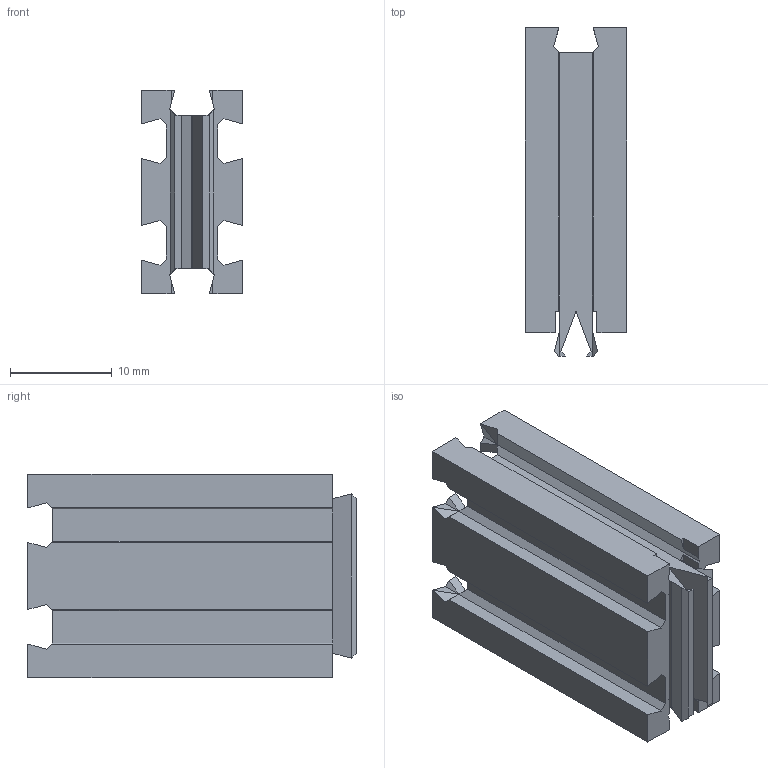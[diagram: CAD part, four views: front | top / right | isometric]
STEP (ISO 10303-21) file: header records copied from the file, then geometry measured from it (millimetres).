
FILE_DESCRIPTION(/* description */ (''),/* implementation_level */ '2;1');
FILE_NAME(/* name */ 'C:/Users/priba/Downloads/Brick1x2x3.step',/* time_stamp */ '2020-06-09T22:12:16+02:00',/* author */ (''),/* organization */ (''),/* preprocessor_version */ 'ST-DEVELOPER v18.1',/* originating_system */ 'Autodesk Translation Framework v9.3.0.1241',/* authorisation */ '');
FILE_SCHEMA (('AUTOMOTIVE_DESIGN { 1 0 10303 214 3 1 1 }'));
Length unit declared in the file: millimetre
Products named in the file (1): Brick1x2x3
Bounding box: 10 x 32.31 x 20 mm (x, y, z)
Volume: 2779.6 mm3; surface area: 4657.9 mm2
Topology: 1 solids, 5 shells, 274 faces, 656 edges, 396 vertices
Faces by surface type: plane 274
Entity records: 7638 total; most frequent: CARTESIAN_POINT 1327, ORIENTED_EDGE 1312, DIRECTION 1206, LINE 656, VECTOR 656, EDGE_CURVE 656, VERTEX_POINT 396, EDGE_LOOP 286
